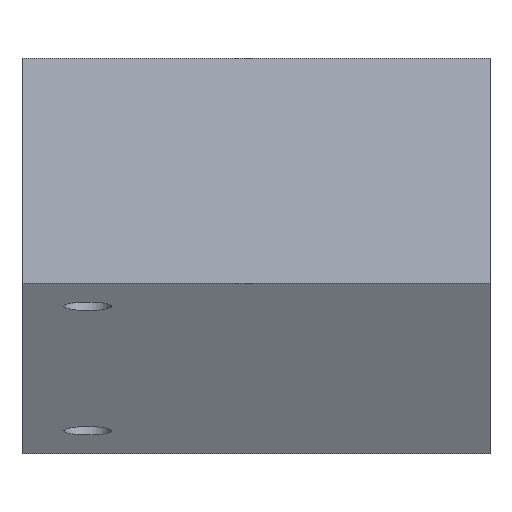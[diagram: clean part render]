
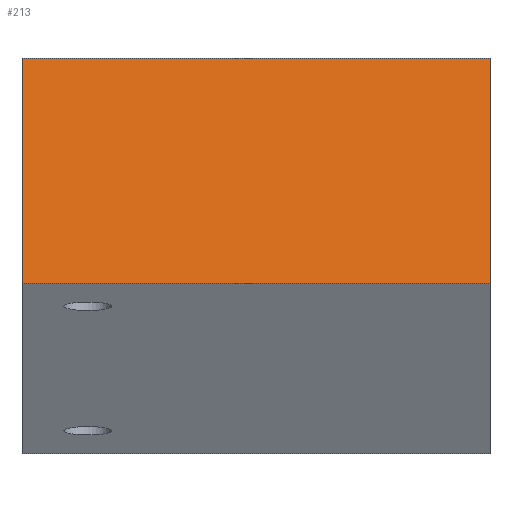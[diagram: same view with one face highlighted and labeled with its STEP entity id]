
A CAD part, front view. The second image highlights one B-rep face of the part: STEP entity #213.
In plain terms, the highlighted planar face has unit normal (0, -0.985, 0.174).
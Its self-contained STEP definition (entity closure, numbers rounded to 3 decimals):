
#37=CARTESIAN_POINT('',(-294.5,-226.311,1254.142));
#38=VERTEX_POINT('',#37);
#45=CARTESIAN_POINT('',(-422.5,-226.311,1254.142));
#46=VERTEX_POINT('',#45);
#47=CARTESIAN_POINT('',(-422.5,-226.311,1254.142));
#48=DIRECTION('',(1.0,0.0,0.0));
#49=VECTOR('',#48,1.);
#50=LINE('',#47,#49);
#51=EDGE_CURVE('',#46,#38,#50,.T.);
#97=CARTESIAN_POINT('',(-294.5,-215.458,1315.694));
#98=VERTEX_POINT('',#97);
#105=CARTESIAN_POINT('',(-294.5,-226.311,1254.142));
#106=DIRECTION('',(0.,0.174,0.985));
#107=VECTOR('',#106,1.);
#108=LINE('',#105,#107);
#109=EDGE_CURVE('',#38,#98,#108,.T.);
#128=CARTESIAN_POINT('',(-422.5,-215.458,1315.694));
#129=VERTEX_POINT('',#128);
#136=CARTESIAN_POINT('',(-294.5,-215.458,1315.694));
#137=DIRECTION('',(-1.0,0.,0.));
#138=VECTOR('',#137,1.);
#139=LINE('',#136,#138);
#140=EDGE_CURVE('',#98,#129,#139,.T.);
#180=CARTESIAN_POINT('',(-422.5,-215.458,1315.694));
#181=DIRECTION('',(0.,-0.174,-0.985));
#182=VECTOR('',#181,1.);
#183=LINE('',#180,#182);
#184=EDGE_CURVE('',#129,#46,#183,.T.);
#202=CARTESIAN_POINT('',(-422.5,-226.311,1254.142));
#203=DIRECTION('',(0.0,-0.985,0.174));
#204=DIRECTION('',(1.0,0.0,0.0));
#205=AXIS2_PLACEMENT_3D('',#202,#203,#204);
#206=PLANE('',#205);
#207=ORIENTED_EDGE('',*,*,#51,.T.);
#208=ORIENTED_EDGE('',*,*,#109,.T.);
#209=ORIENTED_EDGE('',*,*,#140,.T.);
#210=ORIENTED_EDGE('',*,*,#184,.T.);
#211=EDGE_LOOP('',(#207,#208,#209,#210));
#212=FACE_BOUND('',#211,.T.);
#213=ADVANCED_FACE('',(#212),#206,.T.);
